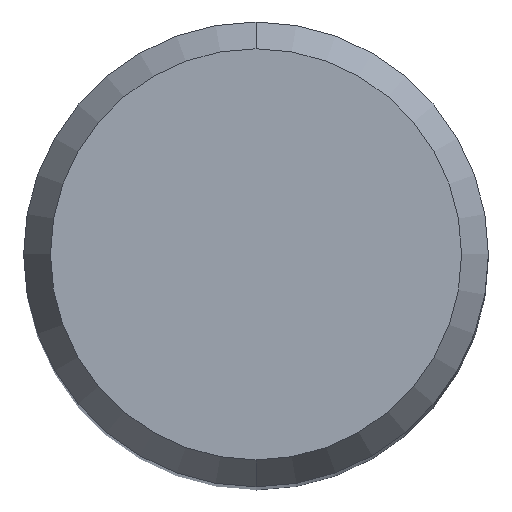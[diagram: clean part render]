
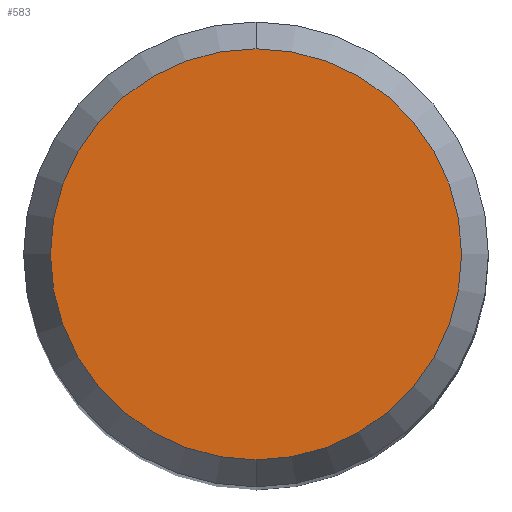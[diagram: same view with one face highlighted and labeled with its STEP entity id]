
A CAD part, top view. The second image highlights one B-rep face of the part: STEP entity #583.
In plain terms, the highlighted planar face has unit normal (0, 0, 1).
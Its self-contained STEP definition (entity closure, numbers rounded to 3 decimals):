
#259=EDGE_CURVE('',#371,#593,#685,.T.);
#371=VERTEX_POINT('',#809);
#583=ADVANCED_FACE('',(#1048),#1049,.T.);
#593=VERTEX_POINT('',#1061);
#599=EDGE_CURVE('',#593,#371,#1067,.T.);
#685=CIRCLE('',#1172,4.423);
#809=CARTESIAN_POINT('',(0.,-4.423,0.0));
#1048=FACE_OUTER_BOUND('',#1842,.T.);
#1049=PLANE('',#1843);
#1061=CARTESIAN_POINT('',(0.0,4.423,0.0));
#1067=CIRCLE('',#1876,4.423);
#1172=AXIS2_PLACEMENT_3D('',#1991,#1992,#1993);
#1842=EDGE_LOOP('',(#2435,#2436));
#1843=AXIS2_PLACEMENT_3D('',#2437,#2438,#2439);
#1876=AXIS2_PLACEMENT_3D('',#2450,#2451,#2452);
#1991=CARTESIAN_POINT('',(0.0,0.0,0.0));
#1992=DIRECTION('',(0.0,0.0,-1.0));
#1993=DIRECTION('',(0.0,1.0,0.0));
#2435=ORIENTED_EDGE('',*,*,#599,.F.);
#2436=ORIENTED_EDGE('',*,*,#259,.F.);
#2437=CARTESIAN_POINT('',(0.0,2.211,0.0));
#2438=DIRECTION('',(-0.0,0.0,1.0));
#2439=DIRECTION('',(0.0,-1.0,0.0));
#2450=CARTESIAN_POINT('',(0.0,0.0,0.0));
#2451=DIRECTION('',(0.0,0.0,-1.0));
#2452=DIRECTION('',(0.0,1.0,0.0));
